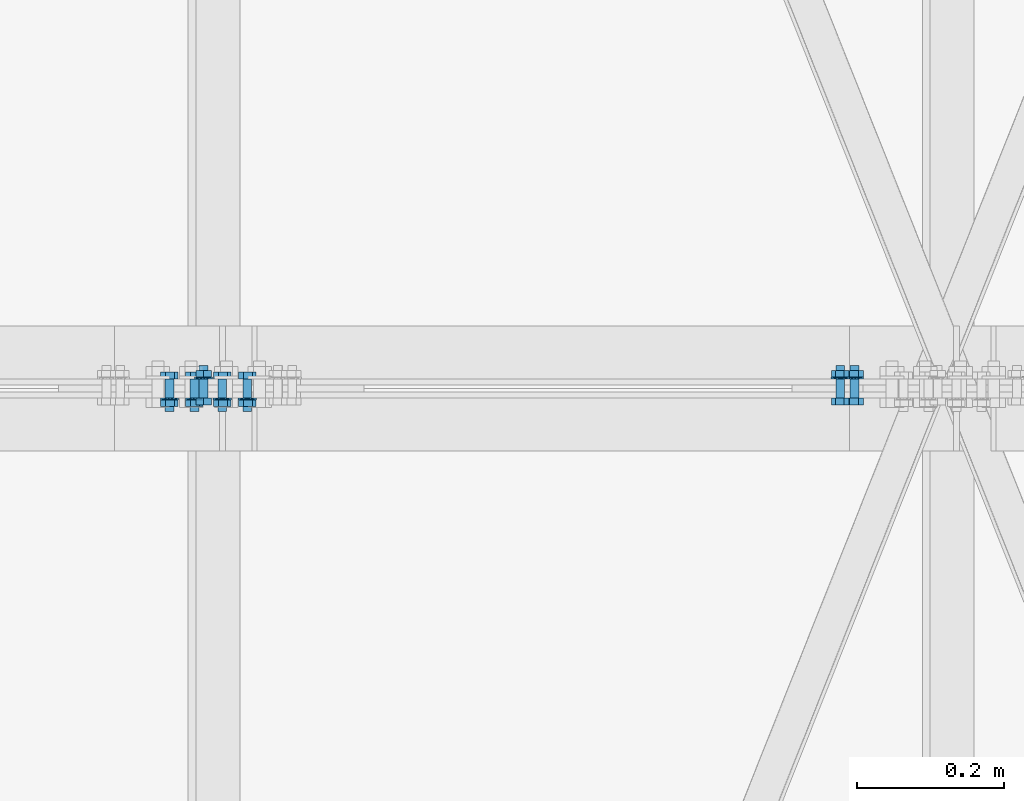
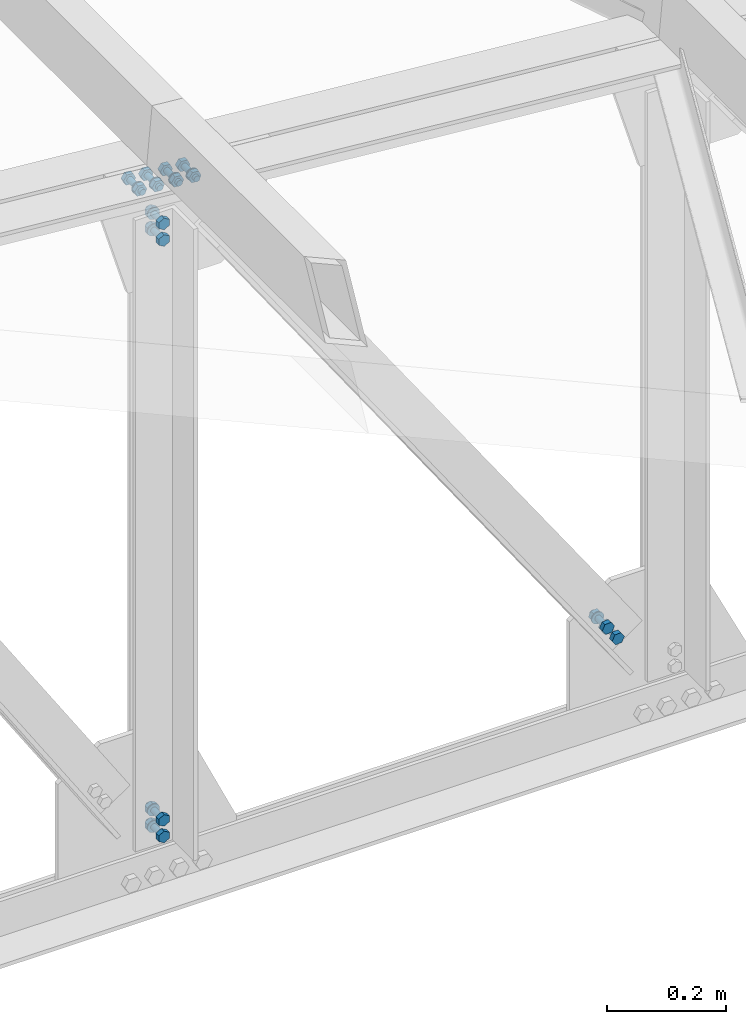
# One storey, part 152 of 251: 40 mechanical fasteners.
"""IFC4 building model written with IfcOpenShell, lengths in metres."""

from ifc_helpers import new_model, si_unit, frame, origin_with_axes, place, context, project, spatial, polyline, outline, extrude, type_object, element, save


model = new_model("IFC4")

# Units and contexts
model_context = context("Model", 3, precision=1e-05, world=origin_with_axes())
ifc_project = project(units=[si_unit("LENGTHUNIT", "METRE"), si_unit("AREAUNIT", "SQUARE_METRE"), si_unit("VOLUMEUNIT", "CUBIC_METRE"), si_unit("MASSUNIT", "GRAM", prefix="KILO"), si_unit("TIMEUNIT", "SECOND"), si_unit("PLANEANGLEUNIT", "RADIAN"), si_unit("SOLIDANGLEUNIT", "STERADIAN"), si_unit("THERMODYNAMICTEMPERATUREUNIT", "DEGREE_CELSIUS")], contexts=[model_context])

# Site, building, storey
placement_1 = place(None, origin_with_axes())
site = spatial("IfcSite", under=ifc_project, at=placement_1, Name="Italia", CompositionType="ELEMENT")
building = spatial("IfcBuilding", under=site, at=placement_1, Name="Deposito", CompositionType="ELEMENT")
storey = spatial("IfcBuildingStorey", under=building, at=placement_1, Name="Storey 0", CompositionType="ELEMENT", Elevation=0.0)

# Mechanical fasteners
mechanical_fastener_type_1 = type_object("IfcMechanicalFastenerType", Name="Reticolare 4", PredefinedType="BOLT")
placement_2 = place(placement_1, origin_with_axes())
mechanical_fastener_1_placement = place(placement_2, origin_with_axes())
element("IfcMechanicalFastener", 1, at=mechanical_fastener_1_placement, inside=storey, type_object=mechanical_fastener_type_1, Name="Reticolare 4", NominalDiameter=0.0119999, context=model_context, shape_type="SweptSolid", body=[
    extrude(outline(polyline([(0.0, 0.0), (0.0, -0.0120001), (-0.0103922, -0.0180001), (-0.0207844, -0.0120001), (-0.0207844, 0.0), (-0.0103922, 0.00600004), (0.0, 0.0)])), frame((15.0224, 9.987, 5.09253), z_axis=(0.0, -1.0, 0.0), x_axis=(1.0, 0.0, 0.0)), (0.0, 0.0, 1.0), 0.00960064),
])
mechanical_fastener_type_2 = type_object("IfcMechanicalFastenerType", Name="Reticolare 4", PredefinedType="BOLT")
mechanical_fastener_2_placement = place(placement_2, origin_with_axes())
element("IfcMechanicalFastener", 2, at=mechanical_fastener_2_placement, inside=storey, type_object=mechanical_fastener_type_2, Name="Reticolare 4", NominalDiameter=0.012, context=model_context, shape_type="SweptSolid", body=[
    extrude(outline(polyline([(0.0, 0.0), (-0.000204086, -0.00155306), (-0.000802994, -0.00299978), (-0.00175667, -0.00424242), (-0.00299931, -0.00519609), (-0.00444698, -0.00579548), (-0.00599957, -0.00600004), (-0.00755215, -0.00579548), (-0.00899982, -0.00519609), (-0.0102425, -0.00424242), (-0.0111961, -0.00299978), (-0.011795, -0.00155306), (-0.0119991, 0.0), (-0.011795, 0.00155306), (-0.0111961, 0.00299978), (-0.0102425, 0.00424242), (-0.00899982, 0.00519609), (-0.00755215, 0.00579548), (-0.00599957, 0.00600004), (-0.00444698, 0.00579548), (-0.00299931, 0.00519609), (-0.00175667, 0.00424242), (-0.000802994, 0.00299978), (-0.000204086, 0.00155306), (0.0, 0.0)])), frame((15.018, 10.031, 5.08653), z_axis=(0.0, -1.0, 0.0), x_axis=(1.0, 0.0, 0.0)), (0.0, 0.0, 1.0), 0.0439997),
])
mechanical_fastener_type_3 = type_object("IfcMechanicalFastenerType", Name="Reticolare 4", PredefinedType="BOLT")
mechanical_fastener_3_placement = place(placement_2, origin_with_axes())
element("IfcMechanicalFastener", 3, at=mechanical_fastener_3_placement, inside=storey, type_object=mechanical_fastener_type_3, Name="Reticolare 4", NominalDiameter=0.0119999, context=model_context, shape_type="SweptSolid", body=[
    extrude(outline(polyline([(0.0, 0.0), (0.0, -0.0120001), (-0.0103922, -0.0180001), (-0.0207844, -0.0120001), (-0.0207844, 0.0), (-0.0103922, 0.00600004), (0.0, 0.0)])), frame((15.0224, 10.0246, 5.09253), z_axis=(0.0, -1.0, 0.0), x_axis=(1.0, 0.0, 0.0)), (0.0, 0.0, 1.0), 0.00959969),
])
mechanical_fastener_type_4 = type_object("IfcMechanicalFastenerType", Name="Reticolare 4", PredefinedType="BOLT")
mechanical_fastener_4_placement = place(placement_2, origin_with_axes())
element("IfcMechanicalFastener", 4, at=mechanical_fastener_4_placement, inside=storey, type_object=mechanical_fastener_type_4, Name="Reticolare 4", NominalDiameter=0.024, context=model_context, shape_type="SweptSolid", body=[
    extrude(outline(polyline([(0.0, 0.0), (-0.000409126, -0.00310564), (-0.00160789, -0.00600004), (-0.00351524, -0.00848532), (-0.00600052, -0.0103922), (-0.00889397, -0.011591), (-0.0120001, -0.0120001), (-0.0151062, -0.011591), (-0.0179996, -0.0103922), (-0.0204849, -0.00848532), (-0.0223923, -0.00600004), (-0.023591, -0.00310564), (-0.0240002, 0.0), (-0.023591, 0.00310564), (-0.0223923, 0.00600004), (-0.0204849, 0.00848532), (-0.0179996, 0.0103922), (-0.0151062, 0.011591), (-0.0120001, 0.0120001), (-0.00889397, 0.011591), (-0.00600052, 0.0103922), (-0.00351524, 0.00848532), (-0.00160789, 0.00600004), (-0.000409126, 0.00310564), (0.0, 0.0)])), frame((15.024, 10.015, 5.08653), z_axis=(0.0, -1.0, 0.0), x_axis=(1.0, 0.0, 0.0)), (0.0, 0.0, 1.0), 0.00200081),
])
mechanical_fastener_type_5 = type_object("IfcMechanicalFastenerType", Name="Reticolare 4", PredefinedType="BOLT")
mechanical_fastener_5_placement = place(placement_2, origin_with_axes())
element("IfcMechanicalFastener", 5, at=mechanical_fastener_5_placement, inside=storey, type_object=mechanical_fastener_type_5, Name="Reticolare 4", NominalDiameter=0.0119999, context=model_context, shape_type="SweptSolid", body=[
    extrude(outline(polyline([(0.0, 0.0), (0.0, -0.0120001), (-0.0103922, -0.0180001), (-0.0207844, -0.0120001), (-0.0207844, 0.0), (-0.0103922, 0.00600004), (0.0, 0.0)])), frame((15.0224, 9.987, 5.12653), z_axis=(0.0, -1.0, 0.0), x_axis=(1.0, 0.0, 0.0)), (0.0, 0.0, 1.0), 0.00960064),
])
mechanical_fastener_type_6 = type_object("IfcMechanicalFastenerType", Name="Reticolare 4", PredefinedType="BOLT")
mechanical_fastener_6_placement = place(placement_2, origin_with_axes())
element("IfcMechanicalFastener", 6, at=mechanical_fastener_6_placement, inside=storey, type_object=mechanical_fastener_type_6, Name="Reticolare 4", NominalDiameter=0.012, context=model_context, shape_type="SweptSolid", body=[
    extrude(outline(polyline([(0.0, 0.0), (-0.000204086, -0.00155306), (-0.000802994, -0.00299978), (-0.00175667, -0.00424242), (-0.00299931, -0.00519609), (-0.00444698, -0.00579548), (-0.00599957, -0.00600004), (-0.00755215, -0.00579548), (-0.00899982, -0.00519609), (-0.0102425, -0.00424242), (-0.0111961, -0.00299978), (-0.011795, -0.00155306), (-0.0119991, 0.0), (-0.011795, 0.00155306), (-0.0111961, 0.00299978), (-0.0102425, 0.00424242), (-0.00899982, 0.00519609), (-0.00755215, 0.00579548), (-0.00599957, 0.00600004), (-0.00444698, 0.00579548), (-0.00299931, 0.00519609), (-0.00175667, 0.00424242), (-0.000802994, 0.00299978), (-0.000204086, 0.00155306), (0.0, 0.0)])), frame((15.018, 10.031, 5.12053), z_axis=(0.0, -1.0, 0.0), x_axis=(1.0, 0.0, 0.0)), (0.0, 0.0, 1.0), 0.0439997),
])
mechanical_fastener_type_7 = type_object("IfcMechanicalFastenerType", Name="Reticolare 4", PredefinedType="BOLT")
mechanical_fastener_7_placement = place(placement_2, origin_with_axes())
element("IfcMechanicalFastener", 7, at=mechanical_fastener_7_placement, inside=storey, type_object=mechanical_fastener_type_7, Name="Reticolare 4", NominalDiameter=0.0119999, context=model_context, shape_type="SweptSolid", body=[
    extrude(outline(polyline([(0.0, 0.0), (0.0, -0.0120001), (-0.0103922, -0.0180001), (-0.0207844, -0.0120001), (-0.0207844, 0.0), (-0.0103922, 0.00600004), (0.0, 0.0)])), frame((15.0224, 10.0246, 5.12653), z_axis=(0.0, -1.0, 0.0), x_axis=(1.0, 0.0, 0.0)), (0.0, 0.0, 1.0), 0.00959969),
])
mechanical_fastener_type_8 = type_object("IfcMechanicalFastenerType", Name="Reticolare 4", PredefinedType="BOLT")
mechanical_fastener_8_placement = place(placement_2, origin_with_axes())
element("IfcMechanicalFastener", 8, at=mechanical_fastener_8_placement, inside=storey, type_object=mechanical_fastener_type_8, Name="Reticolare 4", NominalDiameter=0.024, context=model_context, shape_type="SweptSolid", body=[
    extrude(outline(polyline([(0.0, 0.0), (-0.000409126, -0.00310564), (-0.00160789, -0.00600004), (-0.00351524, -0.00848532), (-0.00600052, -0.0103922), (-0.00889397, -0.011591), (-0.0120001, -0.0120001), (-0.0151062, -0.011591), (-0.0179996, -0.0103922), (-0.0204849, -0.00848532), (-0.0223923, -0.00600004), (-0.023591, -0.00310564), (-0.0240002, 0.0), (-0.023591, 0.00310564), (-0.0223923, 0.00600004), (-0.0204849, 0.00848532), (-0.0179996, 0.0103922), (-0.0151062, 0.011591), (-0.0120001, 0.0120001), (-0.00889397, 0.011591), (-0.00600052, 0.0103922), (-0.00351524, 0.00848532), (-0.00160789, 0.00600004), (-0.000409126, 0.00310564), (0.0, 0.0)])), frame((15.024, 10.015, 5.12053), z_axis=(0.0, -1.0, 0.0), x_axis=(1.0, 0.0, 0.0)), (0.0, 0.0, 1.0), 0.00200081),
])
mechanical_fastener_type_9 = type_object("IfcMechanicalFastenerType", Name="Reticolare 4", PredefinedType="BOLT")
mechanical_fastener_9_placement = place(placement_2, origin_with_axes())
element("IfcMechanicalFastener", 9, at=mechanical_fastener_9_placement, inside=storey, type_object=mechanical_fastener_type_9, Name="Reticolare 4", NominalDiameter=0.0119994, context=model_context, shape_type="SweptSolid", body=[
    extrude(outline(polyline([(0.0, 0.0), (-0.00684071, 0.00985909), (-0.00172329, 0.0207129), (0.0102358, 0.0217075), (0.0170765, 0.0118484), (0.0119581, 0.000994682), (0.0, 0.0)])), frame((15.8903, 9.987, 5.17415), z_axis=(0.0, -1.0, 0.0), x_axis=(1.0, 0.0, 0.0)), (0.0, 0.0, 1.0), 0.00960064),
])
mechanical_fastener_type_10 = type_object("IfcMechanicalFastenerType", Name="Reticolare 4", PredefinedType="BOLT")
mechanical_fastener_10_placement = place(placement_2, origin_with_axes())
element("IfcMechanicalFastener", 10, at=mechanical_fastener_10_placement, inside=storey, type_object=mechanical_fastener_type_10, Name="Reticolare 4", NominalDiameter=0.012, context=model_context, shape_type="SweptSolid", body=[
    extrude(outline(polyline([(0.0, 0.0), (-0.000204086, -0.00155306), (-0.000802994, -0.00299978), (-0.00175667, -0.00424242), (-0.00299931, -0.00519609), (-0.00444698, -0.00579548), (-0.00599957, -0.00600004), (-0.00755215, -0.00579548), (-0.00899982, -0.00519609), (-0.0102425, -0.00424242), (-0.0111961, -0.00299978), (-0.011795, -0.00155306), (-0.0119991, 0.0), (-0.011795, 0.00155306), (-0.0111961, 0.00299978), (-0.0102425, 0.00424242), (-0.00899982, 0.00519609), (-0.00755215, 0.00579548), (-0.00599957, 0.00600004), (-0.00444698, 0.00579548), (-0.00299931, 0.00519609), (-0.00175667, 0.00424242), (-0.000802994, 0.00299978), (-0.000204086, 0.00155306), (0.0, 0.0)])), frame((15.9014, 10.031, 5.185), z_axis=(0.0, -1.0, 0.0), x_axis=(1.0, 0.0, 0.0)), (0.0, 0.0, 1.0), 0.0439997),
])
mechanical_fastener_type_11 = type_object("IfcMechanicalFastenerType", Name="Reticolare 4", PredefinedType="BOLT")
mechanical_fastener_11_placement = place(placement_2, origin_with_axes())
element("IfcMechanicalFastener", 11, at=mechanical_fastener_11_placement, inside=storey, type_object=mechanical_fastener_type_11, Name="Reticolare 4", NominalDiameter=0.0119994, context=model_context, shape_type="SweptSolid", body=[
    extrude(outline(polyline([(0.0, 0.0), (-0.00684071, 0.00985909), (-0.00172329, 0.0207129), (0.0102358, 0.0217075), (0.0170765, 0.0118484), (0.0119581, 0.000994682), (0.0, 0.0)])), frame((15.8903, 10.0246, 5.17415), z_axis=(0.0, -1.0, 0.0), x_axis=(1.0, 0.0, 0.0)), (0.0, 0.0, 1.0), 0.00959969),
])
mechanical_fastener_type_12 = type_object("IfcMechanicalFastenerType", Name="Reticolare 4", PredefinedType="BOLT")
mechanical_fastener_12_placement = place(placement_2, origin_with_axes())
element("IfcMechanicalFastener", 12, at=mechanical_fastener_12_placement, inside=storey, type_object=mechanical_fastener_type_12, Name="Reticolare 4", NominalDiameter=0.024, context=model_context, shape_type="SweptSolid", body=[
    extrude(outline(polyline([(0.0, 0.0), (-0.000409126, -0.00310564), (-0.00160789, -0.00600004), (-0.00351524, -0.00848532), (-0.00600052, -0.0103922), (-0.00889397, -0.011591), (-0.0120001, -0.0120001), (-0.0151062, -0.011591), (-0.0179996, -0.0103922), (-0.0204849, -0.00848532), (-0.0223923, -0.00600004), (-0.023591, -0.00310564), (-0.0240002, 0.0), (-0.023591, 0.00310564), (-0.0223923, 0.00600004), (-0.0204849, 0.00848532), (-0.0179996, 0.0103922), (-0.0151062, 0.011591), (-0.0120001, 0.0120001), (-0.00889397, 0.011591), (-0.00600052, 0.0103922), (-0.00351524, 0.00848532), (-0.00160789, 0.00600004), (-0.000409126, 0.00310564), (0.0, 0.0)])), frame((15.9074, 10.015, 5.185), z_axis=(0.0, -1.0, 0.0), x_axis=(1.0, 0.0, 0.0)), (0.0, 0.0, 1.0), 0.00200081),
])
mechanical_fastener_type_13 = type_object("IfcMechanicalFastenerType", Name="Reticolare 4", PredefinedType="BOLT")
mechanical_fastener_13_placement = place(placement_2, origin_with_axes())
element("IfcMechanicalFastener", 13, at=mechanical_fastener_13_placement, inside=storey, type_object=mechanical_fastener_type_13, Name="Reticolare 4", NominalDiameter=0.0119999, context=model_context, shape_type="SweptSolid", body=[
    extrude(outline(polyline([(0.0, 0.0), (-0.00684071, 0.00985909), (-0.00172234, 0.0207129), (0.0102367, 0.0217075), (0.0170774, 0.0118484), (0.0119591, 0.000994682), (0.0, 0.0)])), frame((15.8709, 9.987, 5.20208), z_axis=(0.0, -1.0, 0.0), x_axis=(1.0, 0.0, 0.0)), (0.0, 0.0, 1.0), 0.00960064),
])
mechanical_fastener_type_14 = type_object("IfcMechanicalFastenerType", Name="Reticolare 4", PredefinedType="BOLT")
mechanical_fastener_14_placement = place(placement_2, origin_with_axes())
element("IfcMechanicalFastener", 14, at=mechanical_fastener_14_placement, inside=storey, type_object=mechanical_fastener_type_14, Name="Reticolare 4", NominalDiameter=0.012, context=model_context, shape_type="SweptSolid", body=[
    extrude(outline(polyline([(0.0, 0.0), (-0.000204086, -0.00155306), (-0.000802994, -0.00299978), (-0.00175667, -0.00424242), (-0.00299931, -0.00519609), (-0.00444698, -0.00579548), (-0.00599957, -0.00600004), (-0.00755215, -0.00579548), (-0.00899982, -0.00519609), (-0.0102425, -0.00424242), (-0.0111961, -0.00299978), (-0.011795, -0.00155306), (-0.0119991, 0.0), (-0.011795, 0.00155306), (-0.0111961, 0.00299978), (-0.0102425, 0.00424242), (-0.00899982, 0.00519609), (-0.00755215, 0.00579548), (-0.00599957, 0.00600004), (-0.00444698, 0.00579548), (-0.00299931, 0.00519609), (-0.00175667, 0.00424242), (-0.000802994, 0.00299978), (-0.000204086, 0.00155306), (0.0, 0.0)])), frame((15.882, 10.031, 5.21294), z_axis=(0.0, -1.0, 0.0), x_axis=(1.0, 0.0, 0.0)), (0.0, 0.0, 1.0), 0.0439997),
])
mechanical_fastener_type_15 = type_object("IfcMechanicalFastenerType", Name="Reticolare 4", PredefinedType="BOLT")
mechanical_fastener_15_placement = place(placement_2, origin_with_axes())
element("IfcMechanicalFastener", 15, at=mechanical_fastener_15_placement, inside=storey, type_object=mechanical_fastener_type_15, Name="Reticolare 4", NominalDiameter=0.0119999, context=model_context, shape_type="SweptSolid", body=[
    extrude(outline(polyline([(0.0, 0.0), (-0.00684071, 0.00985909), (-0.00172234, 0.0207129), (0.0102367, 0.0217075), (0.0170774, 0.0118484), (0.0119591, 0.000994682), (0.0, 0.0)])), frame((15.8709, 10.0246, 5.20208), z_axis=(0.0, -1.0, 0.0), x_axis=(1.0, 0.0, 0.0)), (0.0, 0.0, 1.0), 0.00959969),
])
mechanical_fastener_type_16 = type_object("IfcMechanicalFastenerType", Name="Reticolare 4", PredefinedType="BOLT")
mechanical_fastener_16_placement = place(placement_2, origin_with_axes())
element("IfcMechanicalFastener", 16, at=mechanical_fastener_16_placement, inside=storey, type_object=mechanical_fastener_type_16, Name="Reticolare 4", NominalDiameter=0.024, context=model_context, shape_type="SweptSolid", body=[
    extrude(outline(polyline([(0.0, 0.0), (-0.000409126, -0.00310564), (-0.00160789, -0.00600004), (-0.00351524, -0.00848532), (-0.00600052, -0.0103922), (-0.00889397, -0.011591), (-0.0120001, -0.0120001), (-0.0151062, -0.011591), (-0.0179996, -0.0103922), (-0.0204849, -0.00848532), (-0.0223923, -0.00600004), (-0.023591, -0.00310564), (-0.0240002, 0.0), (-0.023591, 0.00310564), (-0.0223923, 0.00600004), (-0.0204849, 0.00848532), (-0.0179996, 0.0103922), (-0.0151062, 0.011591), (-0.0120001, 0.0120001), (-0.00889397, 0.011591), (-0.00600052, 0.0103922), (-0.00351524, 0.00848532), (-0.00160789, 0.00600004), (-0.000409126, 0.00310564), (0.0, 0.0)])), frame((15.888, 10.015, 5.21294), z_axis=(0.0, -1.0, 0.0), x_axis=(1.0, 0.0, 0.0)), (0.0, 0.0, 1.0), 0.00200081),
])
mechanical_fastener_type_17 = type_object("IfcMechanicalFastenerType", Name="Reticolare 4", PredefinedType="BOLT")
mechanical_fastener_17_placement = place(placement_2, origin_with_axes())
element("IfcMechanicalFastener", 17, at=mechanical_fastener_17_placement, inside=storey, type_object=mechanical_fastener_type_17, Name="Reticolare 4", NominalDiameter=0.0119997, context=model_context, shape_type="SweptSolid", body=[
    extrude(outline(polyline([(0.0, 0.0), (0.0119543, 0.0010457), (0.0188379, -0.00878429), (0.0137663, -0.01966), (0.00181198, -0.0207057), (-0.00507069, -0.0108757), (0.0, 0.0)])), frame((15.0442, 10.013, 6.43698), z_axis=(0.0, 1.0, 0.0), x_axis=(-1.0, 0.0, 0.0)), (0.0, 0.0, 1.0), 0.00960064),
])
mechanical_fastener_type_18 = type_object("IfcMechanicalFastenerType", Name="Reticolare 4", PredefinedType="BOLT")
mechanical_fastener_18_placement = place(placement_2, origin_with_axes())
element("IfcMechanicalFastener", 18, at=mechanical_fastener_18_placement, inside=storey, type_object=mechanical_fastener_type_18, Name="Reticolare 4", NominalDiameter=0.012, context=model_context, shape_type="SweptSolid", body=[
    extrude(outline(polyline([(0.0, 0.0), (-0.000204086, -0.00155306), (-0.000802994, -0.00299978), (-0.00175667, -0.00424242), (-0.00299931, -0.00519609), (-0.00444698, -0.00579548), (-0.00599957, -0.00600004), (-0.00755215, -0.00579548), (-0.00899982, -0.00519609), (-0.0102425, -0.00424242), (-0.0111961, -0.00299978), (-0.011795, -0.00155306), (-0.0119991, 0.0), (-0.011795, 0.00155306), (-0.0111961, 0.00299978), (-0.0102425, 0.00424242), (-0.00899982, 0.00519609), (-0.00755215, 0.00579548), (-0.00599957, 0.00600004), (-0.00444698, 0.00579548), (-0.00299931, 0.00519609), (-0.00175667, 0.00424242), (-0.000802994, 0.00299978), (-0.000204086, 0.00155306), (0.0, 0.0)])), frame((15.0313, 9.969, 6.42715), z_axis=(0.0, 1.0, 0.0), x_axis=(-1.0, 0.0, 0.0)), (0.0, 0.0, 1.0), 0.0439997),
])
mechanical_fastener_type_19 = type_object("IfcMechanicalFastenerType", Name="Reticolare 4", PredefinedType="BOLT")
mechanical_fastener_19_placement = place(placement_2, origin_with_axes())
element("IfcMechanicalFastener", 19, at=mechanical_fastener_19_placement, inside=storey, type_object=mechanical_fastener_type_19, Name="Reticolare 4", NominalDiameter=0.0119997, context=model_context, shape_type="SweptSolid", body=[
    extrude(outline(polyline([(0.0, 0.0), (0.0119543, 0.0010457), (0.0188379, -0.00878429), (0.0137663, -0.01966), (0.00181198, -0.0207057), (-0.00507069, -0.0108757), (0.0, 0.0)])), frame((15.0442, 9.9754, 6.43698), z_axis=(0.0, 1.0, 0.0), x_axis=(-1.0, 0.0, 0.0)), (0.0, 0.0, 1.0), 0.00959969),
])
mechanical_fastener_type_20 = type_object("IfcMechanicalFastenerType", Name="Reticolare 4", PredefinedType="BOLT")
mechanical_fastener_20_placement = place(placement_2, origin_with_axes())
element("IfcMechanicalFastener", 20, at=mechanical_fastener_20_placement, inside=storey, type_object=mechanical_fastener_type_20, Name="Reticolare 4", NominalDiameter=0.024, context=model_context, shape_type="SweptSolid", body=[
    extrude(outline(polyline([(0.0, 0.0), (-0.000409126, -0.00310564), (-0.00160789, -0.00600004), (-0.00351524, -0.00848532), (-0.00600052, -0.0103922), (-0.00889397, -0.011591), (-0.0120001, -0.0120001), (-0.0151062, -0.011591), (-0.0179996, -0.0103922), (-0.0204849, -0.00848532), (-0.0223923, -0.00600004), (-0.023591, -0.00310564), (-0.0240002, 0.0), (-0.023591, 0.00310564), (-0.0223923, 0.00600004), (-0.0204849, 0.00848532), (-0.0179996, 0.0103922), (-0.0151062, 0.011591), (-0.0120001, 0.0120001), (-0.00889397, 0.011591), (-0.00600052, 0.0103922), (-0.00351524, 0.00848532), (-0.00160789, 0.00600004), (-0.000409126, 0.00310564), (0.0, 0.0)])), frame((15.0253, 9.985, 6.42715), z_axis=(0.0, 1.0, 0.0), x_axis=(-1.0, 0.0, 0.0)), (0.0, 0.0, 1.0), 0.00200081),
])
mechanical_fastener_type_21 = type_object("IfcMechanicalFastenerType", Name="Reticolare 4", PredefinedType="BOLT")
mechanical_fastener_21_placement = place(placement_2, origin_with_axes())
element("IfcMechanicalFastener", 21, at=mechanical_fastener_21_placement, inside=storey, type_object=mechanical_fastener_type_21, Name="Reticolare 4", NominalDiameter=0.0119996, context=model_context, shape_type="SweptSolid", body=[
    extrude(outline(polyline([(0.0, 0.0), (0.0119543, 0.0010457), (0.0188379, -0.00878382), (0.0137663, -0.0196595), (0.00181198, -0.0207052), (-0.00507069, -0.0108757), (0.0, 0.0)])), frame((15.0781, 10.013, 6.43402), z_axis=(0.0, 1.0, 0.0), x_axis=(-1.0, 0.0, 0.0)), (0.0, 0.0, 1.0), 0.00960064),
])
mechanical_fastener_type_22 = type_object("IfcMechanicalFastenerType", Name="Reticolare 4", PredefinedType="BOLT")
mechanical_fastener_22_placement = place(placement_2, origin_with_axes())
element("IfcMechanicalFastener", 22, at=mechanical_fastener_22_placement, inside=storey, type_object=mechanical_fastener_type_22, Name="Reticolare 4", NominalDiameter=0.012, context=model_context, shape_type="SweptSolid", body=[
    extrude(outline(polyline([(0.0, 0.0), (-0.000204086, -0.00155306), (-0.000802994, -0.00299978), (-0.00175667, -0.00424242), (-0.00299931, -0.00519609), (-0.00444698, -0.00579548), (-0.00599957, -0.00600004), (-0.00755215, -0.00579548), (-0.00899982, -0.00519609), (-0.0102425, -0.00424242), (-0.0111961, -0.00299978), (-0.011795, -0.00155306), (-0.0119991, 0.0), (-0.011795, 0.00155306), (-0.0111961, 0.00299978), (-0.0102425, 0.00424242), (-0.00899982, 0.00519609), (-0.00755215, 0.00579548), (-0.00599957, 0.00600004), (-0.00444698, 0.00579548), (-0.00299931, 0.00519609), (-0.00175667, 0.00424242), (-0.000802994, 0.00299978), (-0.000204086, 0.00155306), (0.0, 0.0)])), frame((15.0652, 9.969, 6.42419), z_axis=(0.0, 1.0, 0.0), x_axis=(-1.0, 0.0, 0.0)), (0.0, 0.0, 1.0), 0.0439997),
])
mechanical_fastener_type_23 = type_object("IfcMechanicalFastenerType", Name="Reticolare 4", PredefinedType="BOLT")
mechanical_fastener_23_placement = place(placement_2, origin_with_axes())
element("IfcMechanicalFastener", 23, at=mechanical_fastener_23_placement, inside=storey, type_object=mechanical_fastener_type_23, Name="Reticolare 4", NominalDiameter=0.0119996, context=model_context, shape_type="SweptSolid", body=[
    extrude(outline(polyline([(0.0, 0.0), (0.0119543, 0.0010457), (0.0188379, -0.00878382), (0.0137663, -0.0196595), (0.00181198, -0.0207052), (-0.00507069, -0.0108757), (0.0, 0.0)])), frame((15.0781, 9.9754, 6.43402), z_axis=(0.0, 1.0, 0.0), x_axis=(-1.0, 0.0, 0.0)), (0.0, 0.0, 1.0), 0.00959969),
])
mechanical_fastener_type_24 = type_object("IfcMechanicalFastenerType", Name="Reticolare 4", PredefinedType="BOLT")
mechanical_fastener_24_placement = place(placement_2, origin_with_axes())
element("IfcMechanicalFastener", 24, at=mechanical_fastener_24_placement, inside=storey, type_object=mechanical_fastener_type_24, Name="Reticolare 4", NominalDiameter=0.024, context=model_context, shape_type="SweptSolid", body=[
    extrude(outline(polyline([(0.0, 0.0), (-0.000409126, -0.00310564), (-0.00160789, -0.00600004), (-0.00351524, -0.00848532), (-0.00600052, -0.0103922), (-0.00889397, -0.011591), (-0.0120001, -0.0120001), (-0.0151062, -0.011591), (-0.0179996, -0.0103922), (-0.0204849, -0.00848532), (-0.0223923, -0.00600004), (-0.023591, -0.00310564), (-0.0240002, 0.0), (-0.023591, 0.00310564), (-0.0223923, 0.00600004), (-0.0204849, 0.00848532), (-0.0179996, 0.0103922), (-0.0151062, 0.011591), (-0.0120001, 0.0120001), (-0.00889397, 0.011591), (-0.00600052, 0.0103922), (-0.00351524, 0.00848532), (-0.00160789, 0.00600004), (-0.000409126, 0.00310564), (0.0, 0.0)])), frame((15.0592, 9.985, 6.42419), z_axis=(0.0, 1.0, 0.0), x_axis=(-1.0, 0.0, 0.0)), (0.0, 0.0, 1.0), 0.00200081),
])
mechanical_fastener_type_25 = type_object("IfcMechanicalFastenerType", Name="Reticolare 4", PredefinedType="BOLT")
mechanical_fastener_25_placement = place(placement_2, origin_with_axes())
element("IfcMechanicalFastener", 25, at=mechanical_fastener_25_placement, inside=storey, type_object=mechanical_fastener_type_25, Name="Reticolare 4", NominalDiameter=0.0119996, context=model_context, shape_type="SweptSolid", body=[
    extrude(outline(polyline([(0.0, 0.0), (0.0119543, 0.00104618), (0.018837, -0.00878382), (0.0137653, -0.0196595), (0.00181103, -0.0207052), (-0.00507164, -0.0108757), (0.0, 0.0)])), frame((15.0064, 10.013, 6.44029), z_axis=(0.0, 1.0, 0.0), x_axis=(-1.0, 0.0, 0.0)), (0.0, 0.0, 1.0), 0.00960064),
])
mechanical_fastener_type_26 = type_object("IfcMechanicalFastenerType", Name="Reticolare 4", PredefinedType="BOLT")
mechanical_fastener_26_placement = place(placement_2, origin_with_axes())
element("IfcMechanicalFastener", 26, at=mechanical_fastener_26_placement, inside=storey, type_object=mechanical_fastener_type_26, Name="Reticolare 4", NominalDiameter=0.012, context=model_context, shape_type="SweptSolid", body=[
    extrude(outline(polyline([(0.0, 0.0), (-0.000204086, -0.00155306), (-0.000802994, -0.00299978), (-0.00175667, -0.00424242), (-0.00299931, -0.00519609), (-0.00444698, -0.00579548), (-0.00599957, -0.00600004), (-0.00755215, -0.00579548), (-0.00899982, -0.00519609), (-0.0102425, -0.00424242), (-0.0111961, -0.00299978), (-0.011795, -0.00155306), (-0.0119991, 0.0), (-0.011795, 0.00155306), (-0.0111961, 0.00299978), (-0.0102425, 0.00424242), (-0.00899982, 0.00519609), (-0.00755215, 0.00579548), (-0.00599957, 0.00600004), (-0.00444698, 0.00579548), (-0.00299931, 0.00519609), (-0.00175667, 0.00424242), (-0.000802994, 0.00299978), (-0.000204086, 0.00155306), (0.0, 0.0)])), frame((14.9935, 9.969, 6.43046), z_axis=(0.0, 1.0, 0.0), x_axis=(-1.0, 0.0, 0.0)), (0.0, 0.0, 1.0), 0.0439997),
])
mechanical_fastener_type_27 = type_object("IfcMechanicalFastenerType", Name="Reticolare 4", PredefinedType="BOLT")
mechanical_fastener_27_placement = place(placement_2, origin_with_axes())
element("IfcMechanicalFastener", 27, at=mechanical_fastener_27_placement, inside=storey, type_object=mechanical_fastener_type_27, Name="Reticolare 4", NominalDiameter=0.0119996, context=model_context, shape_type="SweptSolid", body=[
    extrude(outline(polyline([(0.0, 0.0), (0.0119543, 0.00104618), (0.018837, -0.00878382), (0.0137653, -0.0196595), (0.00181103, -0.0207052), (-0.00507164, -0.0108757), (0.0, 0.0)])), frame((15.0064, 9.9754, 6.44029), z_axis=(0.0, 1.0, 0.0), x_axis=(-1.0, 0.0, 0.0)), (0.0, 0.0, 1.0), 0.00959969),
])
mechanical_fastener_type_28 = type_object("IfcMechanicalFastenerType", Name="Reticolare 4", PredefinedType="BOLT")
mechanical_fastener_28_placement = place(placement_2, origin_with_axes())
element("IfcMechanicalFastener", 28, at=mechanical_fastener_28_placement, inside=storey, type_object=mechanical_fastener_type_28, Name="Reticolare 4", NominalDiameter=0.024, context=model_context, shape_type="SweptSolid", body=[
    extrude(outline(polyline([(0.0, 0.0), (-0.000409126, -0.00310564), (-0.00160789, -0.00600004), (-0.00351524, -0.00848532), (-0.00600052, -0.0103922), (-0.00889397, -0.011591), (-0.0120001, -0.0120001), (-0.0151062, -0.011591), (-0.0179996, -0.0103922), (-0.0204849, -0.00848532), (-0.0223923, -0.00600004), (-0.023591, -0.00310564), (-0.0240002, 0.0), (-0.023591, 0.00310564), (-0.0223923, 0.00600004), (-0.0204849, 0.00848532), (-0.0179996, 0.0103922), (-0.0151062, 0.011591), (-0.0120001, 0.0120001), (-0.00889397, 0.011591), (-0.00600052, 0.0103922), (-0.00351524, 0.00848532), (-0.00160789, 0.00600004), (-0.000409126, 0.00310564), (0.0, 0.0)])), frame((14.9875, 9.985, 6.43046), z_axis=(0.0, 1.0, 0.0), x_axis=(-1.0, 0.0, 0.0)), (0.0, 0.0, 1.0), 0.00200081),
])
mechanical_fastener_type_29 = type_object("IfcMechanicalFastenerType", Name="Reticolare 4", PredefinedType="BOLT")
mechanical_fastener_29_placement = place(placement_2, origin_with_axes())
element("IfcMechanicalFastener", 29, at=mechanical_fastener_29_placement, inside=storey, type_object=mechanical_fastener_type_29, Name="Reticolare 4", NominalDiameter=0.012, context=model_context, shape_type="SweptSolid", body=[
    extrude(outline(polyline([(0.0, 0.0), (0.0119543, 0.0010457), (0.018837, -0.00878429), (0.0137653, -0.01966), (0.00181103, -0.0207057), (-0.00507164, -0.0108757), (0.0, 0.0)])), frame((14.9725, 10.013, 6.44325), z_axis=(0.0, 1.0, 0.0), x_axis=(-1.0, 0.0, 0.0)), (0.0, 0.0, 1.0), 0.00960064),
])
mechanical_fastener_type_30 = type_object("IfcMechanicalFastenerType", Name="Reticolare 4", PredefinedType="BOLT")
mechanical_fastener_30_placement = place(placement_2, origin_with_axes())
element("IfcMechanicalFastener", 30, at=mechanical_fastener_30_placement, inside=storey, type_object=mechanical_fastener_type_30, Name="Reticolare 4", NominalDiameter=0.012, context=model_context, shape_type="SweptSolid", body=[
    extrude(outline(polyline([(0.0, 0.0), (-0.000204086, -0.00155306), (-0.000802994, -0.00299978), (-0.00175667, -0.00424242), (-0.00299931, -0.00519609), (-0.00444698, -0.00579548), (-0.00599957, -0.00600004), (-0.00755215, -0.00579548), (-0.00899982, -0.00519609), (-0.0102425, -0.00424242), (-0.0111961, -0.00299978), (-0.011795, -0.00155306), (-0.0119991, 0.0), (-0.011795, 0.00155306), (-0.0111961, 0.00299978), (-0.0102425, 0.00424242), (-0.00899982, 0.00519609), (-0.00755215, 0.00579548), (-0.00599957, 0.00600004), (-0.00444698, 0.00579548), (-0.00299931, 0.00519609), (-0.00175667, 0.00424242), (-0.000802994, 0.00299978), (-0.000204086, 0.00155306), (0.0, 0.0)])), frame((14.9596, 9.969, 6.43342), z_axis=(0.0, 1.0, 0.0), x_axis=(-1.0, 0.0, 0.0)), (0.0, 0.0, 1.0), 0.0439997),
])
mechanical_fastener_type_31 = type_object("IfcMechanicalFastenerType", Name="Reticolare 4", PredefinedType="BOLT")
mechanical_fastener_31_placement = place(placement_2, origin_with_axes())
element("IfcMechanicalFastener", 31, at=mechanical_fastener_31_placement, inside=storey, type_object=mechanical_fastener_type_31, Name="Reticolare 4", NominalDiameter=0.012, context=model_context, shape_type="SweptSolid", body=[
    extrude(outline(polyline([(0.0, 0.0), (0.0119543, 0.0010457), (0.018837, -0.00878429), (0.0137653, -0.01966), (0.00181103, -0.0207057), (-0.00507164, -0.0108757), (0.0, 0.0)])), frame((14.9725, 9.9754, 6.44325), z_axis=(0.0, 1.0, 0.0), x_axis=(-1.0, 0.0, 0.0)), (0.0, 0.0, 1.0), 0.00959969),
])
mechanical_fastener_type_32 = type_object("IfcMechanicalFastenerType", Name="Reticolare 4", PredefinedType="BOLT")
mechanical_fastener_32_placement = place(placement_2, origin_with_axes())
element("IfcMechanicalFastener", 32, at=mechanical_fastener_32_placement, inside=storey, type_object=mechanical_fastener_type_32, Name="Reticolare 4", NominalDiameter=0.024, context=model_context, shape_type="SweptSolid", body=[
    extrude(outline(polyline([(0.0, 0.0), (-0.000409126, -0.00310564), (-0.00160789, -0.00600004), (-0.00351524, -0.00848532), (-0.00600052, -0.0103922), (-0.00889397, -0.011591), (-0.0120001, -0.0120001), (-0.0151062, -0.011591), (-0.0179996, -0.0103922), (-0.0204849, -0.00848532), (-0.0223923, -0.00600004), (-0.023591, -0.00310564), (-0.0240002, 0.0), (-0.023591, 0.00310564), (-0.0223923, 0.00600004), (-0.0204849, 0.00848532), (-0.0179996, 0.0103922), (-0.0151062, 0.011591), (-0.0120001, 0.0120001), (-0.00889397, 0.011591), (-0.00600052, 0.0103922), (-0.00351524, 0.00848532), (-0.00160789, 0.00600004), (-0.000409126, 0.00310564), (0.0, 0.0)])), frame((14.9536, 9.985, 6.43342), z_axis=(0.0, 1.0, 0.0), x_axis=(-1.0, 0.0, 0.0)), (0.0, 0.0, 1.0), 0.00200081),
])
mechanical_fastener_type_33 = type_object("IfcMechanicalFastenerType", Name="Reticolare 4", PredefinedType="BOLT")
mechanical_fastener_33_placement = place(placement_2, origin_with_axes())
element("IfcMechanicalFastener", 33, at=mechanical_fastener_33_placement, inside=storey, type_object=mechanical_fastener_type_33, Name="Reticolare 4", NominalDiameter=0.0119999, context=model_context, shape_type="SweptSolid", body=[
    extrude(outline(polyline([(0.0, 0.0), (0.0, -0.0120001), (-0.0103922, -0.0180001), (-0.0207844, -0.0120001), (-0.0207844, 0.0), (-0.0103922, 0.00600004), (0.0, 0.0)])), frame((15.0224, 9.987, 6.35302), z_axis=(0.0, -1.0, 0.0), x_axis=(1.0, 0.0, 0.0)), (0.0, 0.0, 1.0), 0.00960064),
])
mechanical_fastener_type_34 = type_object("IfcMechanicalFastenerType", Name="Reticolare 4", PredefinedType="BOLT")
mechanical_fastener_34_placement = place(placement_2, origin_with_axes())
element("IfcMechanicalFastener", 34, at=mechanical_fastener_34_placement, inside=storey, type_object=mechanical_fastener_type_34, Name="Reticolare 4", NominalDiameter=0.012, context=model_context, shape_type="SweptSolid", body=[
    extrude(outline(polyline([(0.0, 0.0), (-0.000204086, -0.00155306), (-0.000802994, -0.00299978), (-0.00175667, -0.00424242), (-0.00299931, -0.00519609), (-0.00444698, -0.00579548), (-0.00599957, -0.00600004), (-0.00755215, -0.00579548), (-0.00899982, -0.00519609), (-0.0102425, -0.00424242), (-0.0111961, -0.00299978), (-0.011795, -0.00155306), (-0.0119991, 0.0), (-0.011795, 0.00155306), (-0.0111961, 0.00299978), (-0.0102425, 0.00424242), (-0.00899982, 0.00519609), (-0.00755215, 0.00579548), (-0.00599957, 0.00600004), (-0.00444698, 0.00579548), (-0.00299931, 0.00519609), (-0.00175667, 0.00424242), (-0.000802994, 0.00299978), (-0.000204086, 0.00155306), (0.0, 0.0)])), frame((15.018, 10.031, 6.34702), z_axis=(0.0, -1.0, 0.0), x_axis=(1.0, 0.0, 0.0)), (0.0, 0.0, 1.0), 0.0439997),
])
mechanical_fastener_type_35 = type_object("IfcMechanicalFastenerType", Name="Reticolare 4", PredefinedType="BOLT")
mechanical_fastener_35_placement = place(placement_2, origin_with_axes())
element("IfcMechanicalFastener", 35, at=mechanical_fastener_35_placement, inside=storey, type_object=mechanical_fastener_type_35, Name="Reticolare 4", NominalDiameter=0.0119999, context=model_context, shape_type="SweptSolid", body=[
    extrude(outline(polyline([(0.0, 0.0), (0.0, -0.0120001), (-0.0103922, -0.0180001), (-0.0207844, -0.0120001), (-0.0207844, 0.0), (-0.0103922, 0.00600004), (0.0, 0.0)])), frame((15.0224, 10.0246, 6.35302), z_axis=(0.0, -1.0, 0.0), x_axis=(1.0, 0.0, 0.0)), (0.0, 0.0, 1.0), 0.00959969),
])
mechanical_fastener_type_36 = type_object("IfcMechanicalFastenerType", Name="Reticolare 4", PredefinedType="BOLT")
mechanical_fastener_36_placement = place(placement_2, origin_with_axes())
element("IfcMechanicalFastener", 36, at=mechanical_fastener_36_placement, inside=storey, type_object=mechanical_fastener_type_36, Name="Reticolare 4", NominalDiameter=0.024, context=model_context, shape_type="SweptSolid", body=[
    extrude(outline(polyline([(0.0, 0.0), (-0.000409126, -0.00310564), (-0.00160789, -0.00600004), (-0.00351524, -0.00848532), (-0.00600052, -0.0103922), (-0.00889397, -0.011591), (-0.0120001, -0.0120001), (-0.0151062, -0.011591), (-0.0179996, -0.0103922), (-0.0204849, -0.00848532), (-0.0223923, -0.00600004), (-0.023591, -0.00310564), (-0.0240002, 0.0), (-0.023591, 0.00310564), (-0.0223923, 0.00600004), (-0.0204849, 0.00848532), (-0.0179996, 0.0103922), (-0.0151062, 0.011591), (-0.0120001, 0.0120001), (-0.00889397, 0.011591), (-0.00600052, 0.0103922), (-0.00351524, 0.00848532), (-0.00160789, 0.00600004), (-0.000409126, 0.00310564), (0.0, 0.0)])), frame((15.024, 10.015, 6.34702), z_axis=(0.0, -1.0, 0.0), x_axis=(1.0, 0.0, 0.0)), (0.0, 0.0, 1.0), 0.00200081),
])
mechanical_fastener_type_37 = type_object("IfcMechanicalFastenerType", Name="Reticolare 4", PredefinedType="BOLT")
mechanical_fastener_37_placement = place(placement_2, origin_with_axes())
element("IfcMechanicalFastener", 37, at=mechanical_fastener_37_placement, inside=storey, type_object=mechanical_fastener_type_37, Name="Reticolare 4", NominalDiameter=0.0119999, context=model_context, shape_type="SweptSolid", body=[
    extrude(outline(polyline([(0.0, 0.0), (0.0, -0.0120001), (-0.0103922, -0.0180001), (-0.0207844, -0.0120001), (-0.0207844, 0.0), (-0.0103922, 0.00600004), (0.0, 0.0)])), frame((15.0224, 9.987, 6.31902), z_axis=(0.0, -1.0, 0.0), x_axis=(1.0, 0.0, 0.0)), (0.0, 0.0, 1.0), 0.00960064),
])
mechanical_fastener_type_38 = type_object("IfcMechanicalFastenerType", Name="Reticolare 4", PredefinedType="BOLT")
mechanical_fastener_38_placement = place(placement_2, origin_with_axes())
element("IfcMechanicalFastener", 38, at=mechanical_fastener_38_placement, inside=storey, type_object=mechanical_fastener_type_38, Name="Reticolare 4", NominalDiameter=0.012, context=model_context, shape_type="SweptSolid", body=[
    extrude(outline(polyline([(0.0, 0.0), (-0.000204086, -0.00155306), (-0.000802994, -0.00299978), (-0.00175667, -0.00424242), (-0.00299931, -0.00519609), (-0.00444698, -0.00579548), (-0.00599957, -0.00600004), (-0.00755215, -0.00579548), (-0.00899982, -0.00519609), (-0.0102425, -0.00424242), (-0.0111961, -0.00299978), (-0.011795, -0.00155306), (-0.0119991, 0.0), (-0.011795, 0.00155306), (-0.0111961, 0.00299978), (-0.0102425, 0.00424242), (-0.00899982, 0.00519609), (-0.00755215, 0.00579548), (-0.00599957, 0.00600004), (-0.00444698, 0.00579548), (-0.00299931, 0.00519609), (-0.00175667, 0.00424242), (-0.000802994, 0.00299978), (-0.000204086, 0.00155306), (0.0, 0.0)])), frame((15.018, 10.031, 6.31302), z_axis=(0.0, -1.0, 0.0), x_axis=(1.0, 0.0, 0.0)), (0.0, 0.0, 1.0), 0.0439997),
])
mechanical_fastener_type_39 = type_object("IfcMechanicalFastenerType", Name="Reticolare 4", PredefinedType="BOLT")
mechanical_fastener_39_placement = place(placement_2, origin_with_axes())
element("IfcMechanicalFastener", 39, at=mechanical_fastener_39_placement, inside=storey, type_object=mechanical_fastener_type_39, Name="Reticolare 4", NominalDiameter=0.0119999, context=model_context, shape_type="SweptSolid", body=[
    extrude(outline(polyline([(0.0, 0.0), (0.0, -0.0120001), (-0.0103922, -0.0180001), (-0.0207844, -0.0120001), (-0.0207844, 0.0), (-0.0103922, 0.00600004), (0.0, 0.0)])), frame((15.0224, 10.0246, 6.31902), z_axis=(0.0, -1.0, 0.0), x_axis=(1.0, 0.0, 0.0)), (0.0, 0.0, 1.0), 0.00959969),
])
mechanical_fastener_type_40 = type_object("IfcMechanicalFastenerType", Name="Reticolare 4", PredefinedType="BOLT")
mechanical_fastener_40_placement = place(placement_2, origin_with_axes())
element("IfcMechanicalFastener", 40, at=mechanical_fastener_40_placement, inside=storey, type_object=mechanical_fastener_type_40, Name="Reticolare 4", NominalDiameter=0.024, context=model_context, shape_type="SweptSolid", body=[
    extrude(outline(polyline([(0.0, 0.0), (-0.000409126, -0.00310564), (-0.00160789, -0.00600004), (-0.00351524, -0.00848532), (-0.00600052, -0.0103922), (-0.00889397, -0.011591), (-0.0120001, -0.0120001), (-0.0151062, -0.011591), (-0.0179996, -0.0103922), (-0.0204849, -0.00848532), (-0.0223923, -0.00600004), (-0.023591, -0.00310564), (-0.0240002, 0.0), (-0.023591, 0.00310564), (-0.0223923, 0.00600004), (-0.0204849, 0.00848532), (-0.0179996, 0.0103922), (-0.0151062, 0.011591), (-0.0120001, 0.0120001), (-0.00889397, 0.011591), (-0.00600052, 0.0103922), (-0.00351524, 0.00848532), (-0.00160789, 0.00600004), (-0.000409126, 0.00310564), (0.0, 0.0)])), frame((15.024, 10.015, 6.31302), z_axis=(0.0, -1.0, 0.0), x_axis=(1.0, 0.0, 0.0)), (0.0, 0.0, 1.0), 0.00200081),
])

save(model, "model.ifc")
